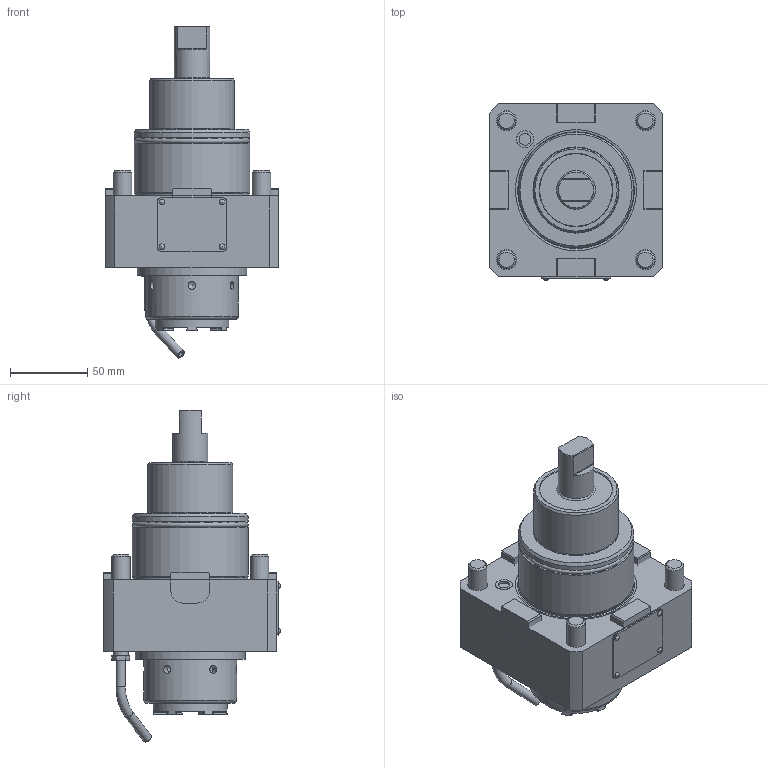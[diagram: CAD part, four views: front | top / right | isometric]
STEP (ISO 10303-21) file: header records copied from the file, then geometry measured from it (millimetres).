
FILE_DESCRIPTION(/* description */ (''),/* implementation_level */ '2;1');
FILE_NAME(/* name */ '169311-1',/* time_stamp */ '2020-05-07T09:50:25+02:00',/* author */ (''),/* organization */ (''),/* preprocessor_version */ 'ST-DEVELOPER v16.5',/* originating_system */ 'HiCAD 2017 2201.0 Build 268',/* authorisation */ '');
FILE_SCHEMA (('AUTOMOTIVE_DESIGN { 1 0 10303 214 1 1 1 1 }'));
Length unit declared in the file: millimetre
Products named in the file (32): Leeres Teil; 112978_Spannmutter HI-QERAXC40_350*; SPANNZANGE; 001_000X_101*; 173501_Kantsealring 7.65x1.68_330*; KZF_M10_3D; 112485_Überwurfschraube_351*; 112384_Doppelkegelring D6_352*; TORUS_1_208*; Gruppe ; DIN 912      (Innensechskant)_Zylinderschraube 12x50_401*; 179326_O-Ring 69,00 x 3; 00011481_370*; 113692_Kerbnagel 2x4_380*; NUTENSTEIN; ROTATIONSTEIL_0_100*
Assembly tree (31 placements, depth 5):
  Leeres Teil
    Leeres Teil
      Leeres Teil
        112978_Spannmutter HI-QERAXC40_350*
          SPANNZANGE
      001_000X_101*
    Leeres Teil
      Leeres Teil
        173501_Kantsealring 7.65x1.68_330*
        KZF_M10_3D
          112485_Überwurfschraube_351*
          112384_Doppelkegelring D6_352*
          TORUS_1_208*
        Gruppe 
          DIN 912      (Innensechskant)_Zylinderschraube 12x50_401*
          DIN 912      (Innensechskant)_Zylinderschraube 12x50_401*
          DIN 912      (Innensechskant)_Zylinderschraube 12x50_401*
          DIN 912      (Innensechskant)_Zylinderschraube 12x50_401*
        179326_O-Ring 69,00 x 3
      Leeres Teil
        00011481_370*
        113692_Kerbnagel 2x4_380*
        113692_Kerbnagel 2x4_380*
        113692_Kerbnagel 2x4_380*
        113692_Kerbnagel 2x4_380*
      Leeres Teil
        Gruppe 
          NUTENSTEIN
          NUTENSTEIN
          NUTENSTEIN
          NUTENSTEIN
      ROTATIONSTEIL_0_100*
Bounding box: 112 x 114.3 x 215 mm (x, y, z)
Volume: 959265.3 mm3; surface area: 157027.7 mm2
Topology: 22 solids, 22 shells, 373 faces, 895 edges, 589 vertices
Faces by surface type: plane 209, cylinder 104, cone 28, torus 24, bspline 4, sphere 4
Full cylindrical faces by diameter (mm): 2 x4, 2.2 x4, 4 x2, 5.1 x6, 6 x3, 6.8 x1, 7.65 x1, 10 x1, 11.01 x1, 11.1 x1, 12 x4, 13 x4, 18 x4, 20 x5, 23 x1, 30.5 x2, 33.5 x2, 35 x1, 36.2 x1, 37.03 x1, 41 x1, 47.9 x1, 48.5 x1, 50 x1, 50.5 x1, 55 x1, 60 x1, 70 x1, 71 x2, 74.3 x1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
Entity records: 20028 total; most frequent: CARTESIAN_POINT 4151, DIRECTION 1768, PRESENTATION_STYLE_ASSIGNMENT 1487, ORIENTED_EDGE 1474, COLOUR_RGB 1472, DRAUGHTING_PRE_DEFINED_CURVE_FONT 1466, CURVE_STYLE 1466, OVER_RIDING_STYLED_ITEM 1466
